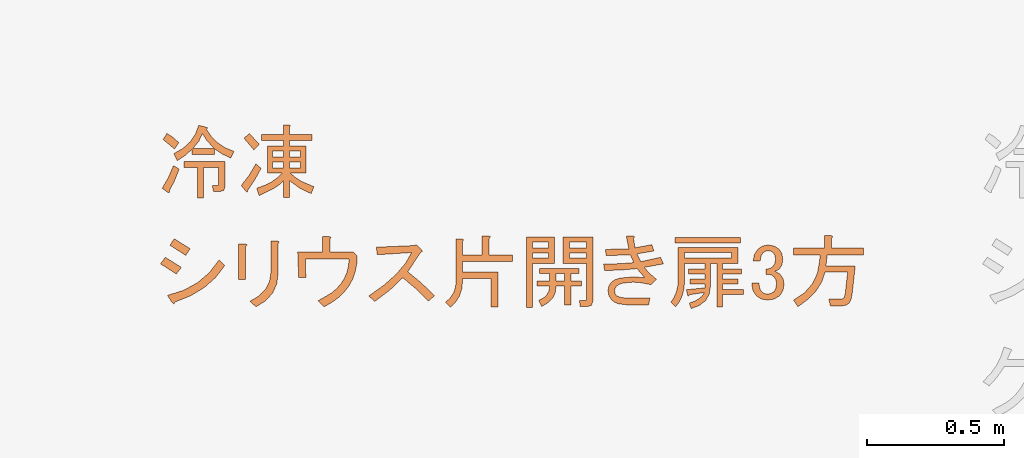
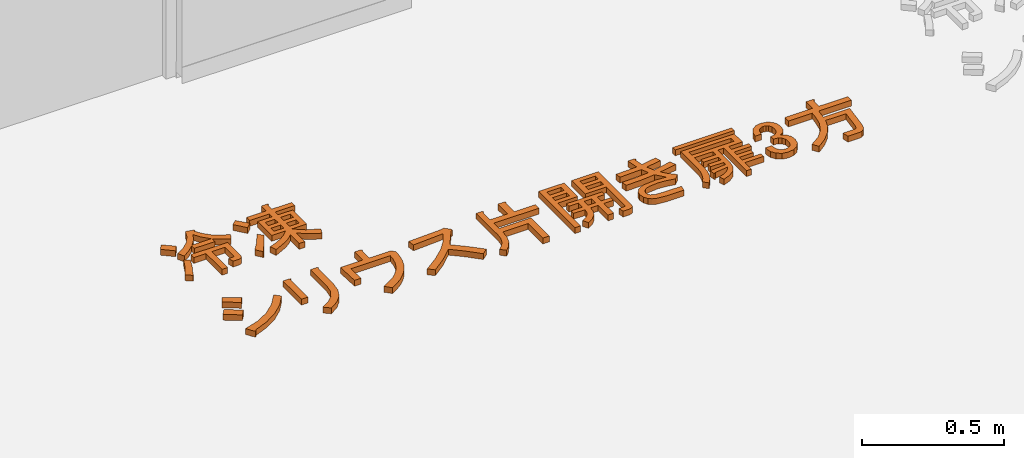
# One storey, part 13 of 16: 1 proxy.
"""IFC2X3 building model written with IfcOpenShell, lengths in millimetres."""

from ifc_helpers import new_model, entity, si_unit, converted_unit, derived_unit, direction, frame, frame_2d, origin, place, context, subcontext, project, spatial, polyline, rectangle, outline, extrude, type_object, element, save


model = new_model("IFC2X3")

# Units and contexts
model_context = context("Model", 3, precision=0.01, world=origin(), true_north=direction((6.123031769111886e-17, 1.0)))
body_context = subcontext(model_context, "Body", "Model", "MODEL_VIEW")
ifc_project = project(units=[si_unit("LENGTHUNIT", "METRE", prefix="MILLI"), si_unit("AREAUNIT", "SQUARE_METRE"), si_unit("VOLUMEUNIT", "CUBIC_METRE"), converted_unit("PLANEANGLEUNIT", "DEGREE", entity("IfcRatioMeasure", 0.017453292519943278), si_unit("PLANEANGLEUNIT", "RADIAN"), dimensions=[0, 0, 0, 0, 0, 0, 0]), si_unit("MASSUNIT", "GRAM", prefix="KILO"), derived_unit("MASSDENSITYUNIT", [(si_unit("MASSUNIT", "GRAM", prefix="KILO"), 1), (si_unit("LENGTHUNIT", "METRE"), -3)]), derived_unit("IONCONCENTRATIONUNIT", [(si_unit("MASSUNIT", "GRAM", prefix="KILO"), 1), (si_unit("LENGTHUNIT", "METRE"), -3)]), derived_unit("MOMENTOFINERTIAUNIT", [(si_unit("LENGTHUNIT", "METRE"), 4)]), si_unit("TIMEUNIT", "SECOND"), si_unit("FREQUENCYUNIT", "HERTZ"), si_unit("THERMODYNAMICTEMPERATUREUNIT", "DEGREE_CELSIUS"), derived_unit("THERMALTRANSMITTANCEUNIT", [(si_unit("MASSUNIT", "GRAM", prefix="KILO"), 1), (si_unit("THERMODYNAMICTEMPERATUREUNIT", "KELVIN"), -1), (si_unit("TIMEUNIT", "SECOND"), -3)]), derived_unit("THERMALCONDUCTANCEUNIT", [(si_unit("MASSUNIT", "GRAM", prefix="KILO"), 1), (si_unit("THERMODYNAMICTEMPERATUREUNIT", "KELVIN"), -1), (si_unit("TIMEUNIT", "SECOND"), -3), (si_unit("LENGTHUNIT", "METRE"), 1)]), derived_unit("VOLUMETRICFLOWRATEUNIT", [(si_unit("LENGTHUNIT", "METRE"), 3), (si_unit("TIMEUNIT", "SECOND"), -1)]), derived_unit("MASSFLOWRATEUNIT", [(si_unit("MASSUNIT", "GRAM", prefix="KILO"), 1), (si_unit("TIMEUNIT", "SECOND"), -1)]), derived_unit("ROTATIONALFREQUENCYUNIT", [(si_unit("TIMEUNIT", "SECOND"), -1)]), si_unit("ELECTRICCURRENTUNIT", "AMPERE"), si_unit("ELECTRICVOLTAGEUNIT", "VOLT"), si_unit("POWERUNIT", "WATT"), si_unit("FORCEUNIT", "NEWTON", prefix="KILO"), si_unit("ILLUMINANCEUNIT", "LUX"), si_unit("LUMINOUSFLUXUNIT", "LUMEN"), si_unit("LUMINOUSINTENSITYUNIT", "CANDELA"), derived_unit("USERDEFINED", [(si_unit("MASSUNIT", "GRAM", prefix="KILO"), -1), (si_unit("LENGTHUNIT", "METRE"), -2), (si_unit("TIMEUNIT", "SECOND"), 3), (si_unit("LUMINOUSFLUXUNIT", "LUMEN"), 1)]), derived_unit("USERDEFINED", [(si_unit("MASSUNIT", "GRAM", prefix="KILO"), 1), (si_unit("TIMEUNIT", "SECOND"), -3), (si_unit("LENGTHUNIT", "METRE"), 3), (si_unit("ELECTRICCURRENTUNIT", "AMPERE"), -2)]), derived_unit("SOUNDPOWERUNIT", [(si_unit("MASSUNIT", "GRAM", prefix="KILO"), 1), (si_unit("TIMEUNIT", "SECOND"), -3), (si_unit("LENGTHUNIT", "METRE"), 2)]), derived_unit("SOUNDPRESSUREUNIT", [(si_unit("MASSUNIT", "GRAM", prefix="KILO"), 1), (si_unit("LENGTHUNIT", "METRE"), -1), (si_unit("TIMEUNIT", "SECOND"), -2)]), derived_unit("LINEARVELOCITYUNIT", [(si_unit("LENGTHUNIT", "METRE"), 1), (si_unit("TIMEUNIT", "SECOND"), -1)]), si_unit("PRESSUREUNIT", "PASCAL"), derived_unit("USERDEFINED", [(si_unit("MASSUNIT", "GRAM", prefix="KILO"), 1), (si_unit("LENGTHUNIT", "METRE"), -2), (si_unit("TIMEUNIT", "SECOND"), -2)]), derived_unit("LINEARFORCEUNIT", [(si_unit("MASSUNIT", "GRAM", prefix="KILO"), 1), (si_unit("TIMEUNIT", "SECOND"), -2)]), derived_unit("PLANARFORCEUNIT", [(si_unit("MASSUNIT", "GRAM", prefix="KILO"), 1), (si_unit("LENGTHUNIT", "METRE"), -1), (si_unit("TIMEUNIT", "SECOND"), -2)]), derived_unit("SPECIFICHEATCAPACITYUNIT", [(si_unit("THERMODYNAMICTEMPERATUREUNIT", "KELVIN"), -1), (si_unit("LENGTHUNIT", "METRE"), 2), (si_unit("TIMEUNIT", "SECOND"), -2)]), derived_unit("HEATINGVALUEUNIT", [(si_unit("LENGTHUNIT", "METRE"), 2), (si_unit("TIMEUNIT", "SECOND"), -2)]), derived_unit("VAPORPERMEABILITYUNIT", [(si_unit("LENGTHUNIT", "METRE"), -1), (si_unit("TIMEUNIT", "SECOND"), 1)]), derived_unit("DYNAMICVISCOSITYUNIT", [(si_unit("MASSUNIT", "GRAM", prefix="KILO"), 1), (si_unit("TIMEUNIT", "SECOND"), -1), (si_unit("LENGTHUNIT", "METRE"), -1)]), derived_unit("THERMALEXPANSIONCOEFFICIENTUNIT", [(si_unit("THERMODYNAMICTEMPERATUREUNIT", "KELVIN"), -1)]), derived_unit("MODULUSOFELASTICITYUNIT", [(si_unit("MASSUNIT", "GRAM", prefix="KILO"), 1), (si_unit("LENGTHUNIT", "METRE"), -1), (si_unit("TIMEUNIT", "SECOND"), -2)]), derived_unit("ISOTHERMALMOISTURECAPACITYUNIT", [(si_unit("LENGTHUNIT", "METRE"), 3), (si_unit("MASSUNIT", "GRAM", prefix="KILO"), -1)]), derived_unit("MOISTUREDIFFUSIVITYUNIT", [(si_unit("TIMEUNIT", "SECOND"), -1), (si_unit("LENGTHUNIT", "METRE"), 2)])], contexts=[model_context])

# Site, building, storey
site_placement = place(None, origin())
site = spatial("IfcSite", under=ifc_project, at=site_placement, Name="Default", CompositionType="ELEMENT")
building_placement = place(site_placement, origin())
building = spatial("IfcBuilding", under=site, at=building_placement, CompositionType="ELEMENT")
storey_placement = place(building_placement, frame((0.0, 0.0, 500.0)))
storey = spatial("IfcBuildingStorey", under=building, at=storey_placement, Name="レベル 1", CompositionType="ELEMENT", Elevation=500.00000000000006)

# Proxy
building_element_proxy_type = type_object("IfcBuildingElementProxyType", Name="立体文字:200㎜\u3000MS Pゴシック", PredefinedType="NOTDEFINED")
proxy_placement = place(storey_placement, origin())
element("IfcBuildingElementProxy", 1, at=proxy_placement, inside=storey, type_object=building_element_proxy_type, Name="立体文字:200㎜\u3000MS Pゴシック", ObjectType="立体文字:200㎜\u3000MS Pゴシック", context=body_context, shape_type="SweptSolid", body=[
    extrude(outline(polyline([(-12.69292841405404, -26.50604676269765), (13.137935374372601, -26.50604676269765), (20.196666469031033, 26.894788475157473), (-7.8336570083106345, 28.224694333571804), (-12.808016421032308, -2.107389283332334), (-12.69292841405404, -26.50604676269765)])), frame((4373.947496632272, 18997.18463860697, 0.0), z_axis=(0.0, 0.0, 1.0), x_axis=(-0.5339929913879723, -0.8454889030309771, 0.0)), (0.0, 0.0, 1.0), 25.0),
    extrude(outline(polyline([(-35.74413796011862, -10.848757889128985), (11.518383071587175, -10.848757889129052), (59.58462904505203, -6.865077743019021), (63.770987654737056, 17.994484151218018), (13.95401909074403, 15.607770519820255), (-32.18678147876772, 19.112710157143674), (-41.48203515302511, -10.520278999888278), (-39.41506427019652, -13.632092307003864), (-35.74413796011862, -10.848757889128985)])), frame((4663.316452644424, 18848.645883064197, 0.0), z_axis=(0.0, 0.0, 1.0), x_axis=(0.5532962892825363, 0.8329845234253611, 0.0)), (0.0, 0.0, 1.0), 25.0),
    extrude(outline(polyline([(-14.555450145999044, -34.35830877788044), (13.834076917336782, -34.35830877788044), (14.857961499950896, 33.8696365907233), (-14.136588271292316, 34.84698096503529), (-14.555450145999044, -34.35830877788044)])), frame((4406.304749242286, 18607.702182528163, 0.0), z_axis=(0.0, 0.0, 1.0), x_axis=(-0.5263546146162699, -0.8502651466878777, 0.0)), (0.0, 0.0, 1.0), 24.99999999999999),
    extrude(outline(polyline([(-84.58097707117, 8.189890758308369), (-84.58097707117, -18.247651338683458), (45.307816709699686, -18.247651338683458), (45.307816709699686, 7.0404324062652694), (42.43417082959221, 13.075088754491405), (36.112149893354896, 8.189890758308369), (-84.58097707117, 8.189890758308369)])), frame((4637.949343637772, 18573.314220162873, 0.0), z_axis=(0.0, 0.0, -1.0), x_axis=(0.0, 1.0, 0.0)), (0.0, 0.0, -1.0), 25.0),
    extrude(outline(polyline([(-11.477428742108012, -36.07605005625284), (15.650762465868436, -36.07605005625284), (18.548657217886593, -33.22685941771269), (15.26112955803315, -27.796350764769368), (8.868714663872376, 11.398284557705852), (-3.1003212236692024, 57.19232725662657), (-27.257561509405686, 55.098050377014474), (-16.493952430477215, 9.48664810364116), (-11.477428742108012, -36.07605005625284)])), frame((4371.713236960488, 18844.299493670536, 0.0), z_axis=(0.0, 0.0, 1.0), x_axis=(0.805055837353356, -0.5931990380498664, 0.0)), (0.0, 0.0, 1.0), 25.0),
    extrude(outline(polyline([(-21.439239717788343, -112.61303631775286), (6.833697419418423, -112.61303631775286), (2.592756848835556, -77.4003782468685), (-6.017637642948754, -45.78609399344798), (10.432071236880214, -54.01094843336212), (47.44391621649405, 20.01274152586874), (29.96610053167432, 28.751649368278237), (60.93781803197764, 46.35797840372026), (85.99792140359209, 66.27754775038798), (69.54821252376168, 87.35373725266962), (43.46000234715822, 64.89602923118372), (15.058551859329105, 48.41419201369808), (-15.656138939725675, 37.90822560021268), (-48.68407005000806, 33.378129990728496), (-48.29852999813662, 38.64717736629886), (-52.282443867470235, 39.03271741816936), (-73.35863336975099, 14.872207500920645), (-49.68004851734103, -10.059382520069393), (-33.13395462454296, -39.617453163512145), (-23.720351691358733, -73.80200442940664), (-21.439239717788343, -112.61303631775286)]), holes=[polyline([(26.881780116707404, 27.723542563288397), (-7.559797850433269, -41.159613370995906), (-20.668159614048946, -11.473029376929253), (-40.45921561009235, 13.844100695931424), (-9.230471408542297, 16.542881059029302), (26.881780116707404, 27.723542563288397)])]), frame((4493.915028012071, 18979.691319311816, 0.0), z_axis=(0.0, 0.0, 1.0), x_axis=(0.4472135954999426, -0.8944271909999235, 0.0)), (0.0, 0.0, 1.0), 25.0),
    extrude(outline(polyline([(-95.80016952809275, -47.90008476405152), (-95.80016952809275, -69.73979345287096), (53.62941623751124, -69.73979345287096), (53.62941623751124, 24.515791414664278), (49.606312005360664, 35.72301034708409), (37.53699930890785, 39.45874999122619), (12.248915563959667, 39.45874999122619), (7.651082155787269, 17.619041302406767), (26.04241578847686, 17.619041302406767), (29.490790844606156, 16.469582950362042), (30.640249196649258, 13.021207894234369), (30.640249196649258, -47.90008476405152), (-23.384293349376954, -47.90008476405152), (-23.384293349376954, 63.59737538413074), (-46.37346039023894, 63.59737538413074), (-46.37346039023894, -47.90008476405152), (-95.80016952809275, -47.90008476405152)])), frame((4516.185783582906, 18850.028825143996, 0.0), z_axis=(0.0, 0.0, -1.0), x_axis=(1.0, 0.0, 0.0)), (0.0, 0.0, -1.0), 25.0),
    extrude(outline(polyline([(-13.144087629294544, -27.492310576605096), (12.91593567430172, -27.492310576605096), (14.335547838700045, 27.973964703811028), (-14.107395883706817, 27.0106564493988), (-13.144087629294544, -27.492310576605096)])), frame((4667.8065243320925, 18992.7592239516, 0.0), z_axis=(0.0, 0.0, 1.0), x_axis=(-0.7498378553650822, -0.6616216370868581, 0.0)), (0.0, 0.0, 1.0), 25.0),
    extrude(outline(polyline([(-127.45617271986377, 14.34228676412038), (-127.45617271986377, -8.646880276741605), (-65.38542170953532, -8.646880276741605), (-79.53812766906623, -23.230633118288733), (-93.2597867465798, -42.843266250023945), (-119.40996425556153, -97.1551733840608), (-92.97242215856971, -106.35084020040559), (-82.12440896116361, -76.75228763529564), (-69.12116135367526, -51.17683930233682), (-53.96267933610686, -29.624495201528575), (-36.64896290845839, -12.095255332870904), (-36.64896290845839, -67.26925623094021), (62.20445536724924, -67.26925623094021), (62.20445536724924, -8.646880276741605), (81.74524735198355, -8.646880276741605), (81.74524735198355, -89.1089649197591), (103.58495604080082, -89.1089649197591), (103.58495604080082, -8.646880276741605), (138.0687066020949, -8.646880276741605), (138.0687066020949, 13.192828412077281), (135.7697898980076, 18.078026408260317), (131.17195648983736, 14.34228676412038), (103.58495604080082, 14.34228676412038), (103.58495604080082, 94.80437140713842), (81.74524735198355, 94.80437140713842), (81.74524735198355, 14.34228676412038), (62.20445536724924, 14.34228676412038), (62.20445536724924, 74.11412107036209), (-36.64896290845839, 74.11412107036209), (-36.64896290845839, 15.49174511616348), (-52.74137983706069, 33.88307874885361), (-66.53488006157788, 54.573329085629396), (-87.22513039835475, 102.85057987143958), (-112.51321414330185, 92.50545470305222), (-91.53559921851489, 49.40076650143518), (-65.38542170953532, 14.34228676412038), (-127.45617271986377, 14.34228676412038)]), holes=[polyline([(21.973413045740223, 14.34228676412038), (21.973413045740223, 54.573329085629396), (43.81312173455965, 54.573329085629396), (43.81312173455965, 14.34228676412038), (21.973413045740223, 14.34228676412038)]), polyline([(-18.25762927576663, 14.34228676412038), (-18.25762927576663, 54.573329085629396), (3.582079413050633, 54.573329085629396), (3.582079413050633, 14.34228676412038), (-18.25762927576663, 14.34228676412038)]), polyline([(-18.25762927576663, -47.72846424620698), (-18.25762927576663, -8.646880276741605), (3.582079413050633, -8.646880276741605), (3.582079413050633, -47.72846424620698), (-18.25762927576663, -47.72846424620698)]), polyline([(21.973413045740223, -47.72846424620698), (21.973413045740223, -8.646880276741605), (43.81312173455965, -8.646880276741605), (43.81312173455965, -47.72846424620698), (21.973413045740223, -47.72846424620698)])]), frame((4792.261333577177, 18915.03708083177, 0.0), z_axis=(0.0, 0.0, -1.0), x_axis=(0.0, 1.0, 0.0)), (0.0, 0.0, -1.0), 25.0),
    extrude(outline(polyline([(-24.76086191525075, -100.9324471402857), (5.213344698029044, -100.9324471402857), (14.007247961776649, -98.35378377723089), (10.414751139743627, -90.61779368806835), (21.875477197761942, -29.78778614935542), (23.197868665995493, 27.95664129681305), (14.381925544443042, 82.61548865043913), (-4.572352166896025, 134.1887559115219), (-33.136007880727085, 127.84127686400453), (-12.975047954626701, 72.94550103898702), (-4.858870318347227, 16.517955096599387), (-8.787474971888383, -41.44136096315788), (-24.76086191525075, -100.9324471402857)])), frame((4459.060098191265, 18464.558697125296, 0.0), z_axis=(0.0, 0.0, 1.0), x_axis=(0.5368754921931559, -0.8436614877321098, 0.0)), (0.0, 0.0, 1.0), 24.999999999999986),
    extrude(outline(polyline([(-12.927911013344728, -34.30740209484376), (16.736132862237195, -34.30740209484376), (13.261965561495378, 33.839725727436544), (-17.070187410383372, 34.77507846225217), (-12.927911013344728, -34.30740209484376)])), frame((4372.970457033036, 18539.88413975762, 0.0), z_axis=(0.0, 0.0, 1.0), x_axis=(-0.5812381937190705, -0.8137334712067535, 0.0)), (0.0, 0.0, 1.0), 24.99999999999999),
    extrude(outline(polyline([(12.171942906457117, 32.40035729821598), (-27.915417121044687, 27.37147700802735), (-61.968120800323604, 12.28483613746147), (-89.98616813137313, -12.859565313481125), (-111.96955911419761, -48.06172734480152), (-92.42876712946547, -71.0508943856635), (-72.88797514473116, -37.788443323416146), (-48.74934975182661, -13.865341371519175), (-20.012890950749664, 0.7184114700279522), (13.32140125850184, 5.962815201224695), (128.26723646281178, 5.962815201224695), (128.26723646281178, 30.10144059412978), (124.81886140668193, 36.4234615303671), (119.07156964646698, 32.40035729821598), (12.171942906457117, 32.40035729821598)])), frame((4732.133087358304, 18501.849383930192, 0.0), z_axis=(0.0, 0.0, -1.0), x_axis=(0.0, 1.0, 0.0)), (0.0, 0.0, -1.0), 25.0),
    extrude(outline(polyline([(-22.97401156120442, -96.89434063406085), (-3.467056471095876, -96.89434063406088), (57.49217818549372, -35.93510597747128), (91.62934959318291, -70.07227738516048), (93.05173173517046, -77.59058299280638), (100.5700373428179, -74.13622636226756), (116.82583325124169, -57.88043045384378), (76.18634348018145, -17.240940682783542), (140.39673731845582, 46.96945315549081), (72.12239450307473, 110.36705719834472), (53.428229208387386, 91.67289190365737), (103.00840672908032, 45.343873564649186), (-9.969374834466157, -67.63390799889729), (-25.86957520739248, -48.88894334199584), (-38.21382022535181, -28.82319526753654), (-47.0021098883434, -7.436663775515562), (-52.234444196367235, 15.270651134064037), (-53.91082314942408, 39.29874946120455), (-52.03124674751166, 64.64763120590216), (-37.604227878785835, 119.30774494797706), (-68.4902401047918, 119.30774494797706), (-77.20233072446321, 88.01533782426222), (-81.79967300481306, 57.94211539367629), (-82.28226694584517, 29.088077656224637), (-78.65011254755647, 1.4532246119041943), (-70.90320980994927, -24.962443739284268), (-59.04155873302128, -50.15892739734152), (-43.06515931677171, -74.1362263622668), (-22.97401156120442, -96.89434063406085)])), frame((4968.287766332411, 18522.673053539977, 0.0), z_axis=(0.0, 0.0, 1.0), x_axis=(-0.7071067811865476, 0.7071067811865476, 0.0)), (0.0, 0.0, 1.0), 24.999999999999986),
    extrude(outline(polyline([(5.5250916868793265, 11.308020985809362), (-1.6526031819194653, 74.77664998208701), (-13.951595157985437, 140.91623239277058), (-42.898742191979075, 132.40700027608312), (-29.969436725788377, 67.2286459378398), (-22.82325753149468, 7.904328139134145), (-87.34766162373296, -7.171982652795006), (-151.01326358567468, -30.37145854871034), (-146.6483426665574, -59.350121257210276), (-83.07334826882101, -34.71668217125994), (-25.486332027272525, -19.214909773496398), (26.112706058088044, -12.844804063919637), (71.7237659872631, -15.606365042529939), (-3.7090009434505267, -115.96803050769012), (17.469532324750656, -133.9792384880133), (95.39203754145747, -25.628349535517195), (105.83948364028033, -15.984553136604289), (100.54485032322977, 9.480111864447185), (96.59357263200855, 15.507484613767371), (89.37254371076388, 11.308020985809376), (5.5250916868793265, 11.308020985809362)])), frame((5225.210489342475, 18519.05020712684, 0.0), z_axis=(0.0, 0.0, -1.0), x_axis=(0.548356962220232, 0.8362443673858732, 0.0)), (0.0, 0.0, -1.0), 25.0),
    extrude(outline(polyline([(37.146662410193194, -113.38448760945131), (58.98637109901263, -113.38448760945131), (58.98637109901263, 40.64293156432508), (61.42897009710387, 63.56025745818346), (68.7567670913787, 84.03498435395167), (80.9697620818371, 102.06711225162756), (98.067955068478, 117.65664115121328), (79.67662143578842, 136.04797478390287), (60.56687633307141, 116.43534165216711), (46.91705840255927, 94.38010952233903), (38.727167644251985, 69.88227839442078), (35.997204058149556, 42.9418482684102), (35.997204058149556, 31.44726474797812), (-67.45404762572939, 31.44726474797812), (-67.45404762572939, 134.89851643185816), (-93.8915897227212, 134.89851643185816), (-93.8915897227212, 6.1591810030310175), (35.997204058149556, 6.1591810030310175), (35.997204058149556, -30.623486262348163), (-146.76667391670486, -30.623486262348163), (-146.76667391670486, -55.91157000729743), (-61.70675586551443, -55.91157000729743), (-61.70675586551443, -115.6834043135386), (-66.59195386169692, -121.43069607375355), (-60.557297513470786, -124.87907112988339), (-35.269213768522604, -124.87907112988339), (-35.269213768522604, -55.91157000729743), (35.997204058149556, -55.91157000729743), (35.997204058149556, -104.18882079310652), (31.11200606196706, -109.93611255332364), (37.146662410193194, -113.38448760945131)])), frame((5473.009762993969, 18523.62888289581, 0.0), z_axis=(0.0, 0.0, 1.0), x_axis=(-1.0, 0.0, 0.0)), (0.0, 0.0, 1.0), 25.0),
    extrude(outline(polyline([(-168.70511813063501, -69.76327998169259), (-73.30007491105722, -69.76327998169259), (-73.30007491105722, -27.23332095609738), (-73.30007491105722, 15.296638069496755), (57.73817722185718, 15.296638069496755), (61.18655227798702, 14.147179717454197), (62.33601063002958, 10.698804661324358), (62.33601063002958, -11.140904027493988), (84.175719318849, -7.692528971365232), (84.175719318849, 19.894471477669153), (79.57788591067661, 33.687971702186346), (65.78438568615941, 38.285805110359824), (-168.70511813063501, 38.285805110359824), (-168.70511813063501, -69.76327998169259)]), holes=[polyline([(-129.62353416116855, 15.296638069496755), (-129.62353416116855, -46.77411294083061), (-150.31378449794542, -46.77411294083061), (-150.31378449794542, 15.296638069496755), (-129.62353416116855, 15.296638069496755)]), polyline([(-91.69140854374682, -46.77411294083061), (-111.23220052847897, -46.77411294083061), (-111.23220052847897, 15.296638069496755), (-91.69140854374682, 15.296638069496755), (-91.69140854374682, -46.77411294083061)])]), frame((5874.602511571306, 18475.205002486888, 0.0), z_axis=(0.0, 0.0, 1.0), x_axis=(0.0, -1.0, 0.0)), (0.0, 0.0, 1.0), 25.0),
    extrude(outline(polyline([(-70.58116380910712, -3.9070531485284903), (-70.58116380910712, -22.29838678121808), (-24.602829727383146, -22.29838678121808), (-24.602829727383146, -49.88538723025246), (-62.534955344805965, -49.88538723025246), (-62.534955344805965, -68.27672086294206), (82.29679701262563, -68.27672086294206), (82.29679701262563, -49.88538723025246), (52.41087985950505, -49.88538723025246), (52.41087985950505, -22.29838678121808), (91.49246382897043, -22.29838678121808), (91.49246382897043, -3.9070531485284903), (52.41087985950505, -3.9070531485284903), (52.41087985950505, 65.06044797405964), (29.421712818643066, 65.06044797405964), (29.421712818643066, -3.9070531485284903), (-1.6136626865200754, -3.9070531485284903), (-3.9844205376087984, 19.728684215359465), (-13.39561079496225, 40.059728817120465), (-29.847233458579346, 57.08608065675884), (-53.33928852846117, 70.80773973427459), (-64.83387204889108, 48.96803104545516), (-47.23279103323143, 40.059728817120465), (-34.660590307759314, 28.27778070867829), (-27.117269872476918, 13.622186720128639), (-24.602829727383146, -3.9070531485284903), (-70.58116380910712, -3.9070531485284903)]), holes=[polyline([(29.421712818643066, -22.29838678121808), (29.421712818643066, -49.88538723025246), (-1.6136626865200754, -49.88538723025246), (-1.6136626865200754, -22.29838678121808), (29.421712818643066, -22.29838678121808)])]), frame((5780.015352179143, 18461.837022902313, 0.0), z_axis=(0.0, 0.0, -1.0), x_axis=(1.0, 0.0, 0.0)), (0.0, 0.0, -1.0), 25.0),
    extrude(outline(polyline([(42.163175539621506, 67.93889097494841), (105.09011528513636, 67.93889097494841), (100.93277992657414, 91.93805418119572), (38.950689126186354, 90.61526565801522), (38.9506891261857, 125.5746766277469), (44.714267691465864, 130.4406486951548), (39.328628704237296, 134.83419628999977), (14.384616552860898, 138.99153164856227), (15.707405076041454, 90.99320523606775), (-68.5731208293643, 102.70933215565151), (-70.08487914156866, 79.65501789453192), (17.786072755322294, 68.50580034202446), (25.53383410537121, 38.081664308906), (-27.850131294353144, 42.900393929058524), (-84.06864352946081, 51.68748911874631), (-84.63555289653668, 27.310386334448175), (-23.409341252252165, 18.85398827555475), (33.28159545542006, 14.649410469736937), (56.14693992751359, -22.95557754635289), (15.896374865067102, -12.7512089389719), (-34.79477104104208, -9.255267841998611), (-53.08940874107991, -12.396890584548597), (-66.68342293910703, -18.79824218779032), (-78.3050649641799, -30.845066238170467), (-84.06864352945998, -46.19886159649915), (-83.9269161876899, -66.3241441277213), (-76.32088217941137, -83.61487982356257), (-66.87239272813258, -93.34682395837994), (-53.64450749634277, -101.37803999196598), (-15.850549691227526, -112.33828775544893), (53.31239309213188, -123.86544488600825), (62.00500338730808, -99.67731189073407), (-7.157939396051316, -88.15015476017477), (-40.5111071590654, -80.26066606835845), (-56.66802412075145, -70.57596438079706), (-60.44741990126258, -61.78886919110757), (-60.44741990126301, -51.30104590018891), (-56.99872125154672, -42.84464784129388), (-49.676141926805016, -35.616553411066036), (-39.89695534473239, -31.128520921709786), (-26.432857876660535, -29.002610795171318), (11.550069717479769, -31.837157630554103), (39.23414380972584, -38.78179737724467), (74.66597925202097, -51.67898547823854), (97.1533841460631, -35.61655341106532), (75.98876777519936, -10.53081391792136), (60.11530549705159, 14.838380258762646), (131.35691595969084, 15.78322920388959), (125.12091292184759, 41.294150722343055), (51.044755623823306, 37.32578515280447), (42.163175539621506, 67.93889097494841)])), frame((6043.39207068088, 18509.04273534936, 0.0), z_axis=(0.0, 0.0, 1.0), x_axis=(0.9863939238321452, 0.16439898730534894, 0.0)), (0.0, 0.0, 1.0), 25.0),
    extrude(rectangle(XDim=239.08733722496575, YDim=18.39133363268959, at=frame_2d((-5.400124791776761e-13, 0.0), x_axis=(1.0, 0.0))), frame((6332.486593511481, 18632.41553709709, 0.0), z_axis=(0.0, 0.0, 1.0), x_axis=(-1.0, 0.0, 0.0)), (0.0, 0.0, 1.0), 25.0),
    extrude(outline(polyline([(45.656903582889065, -73.01948813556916), (67.46634239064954, -73.01948813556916), (65.92150714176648, -40.16902093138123), (56.561622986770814, -13.952258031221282), (39.386689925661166, 5.630800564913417), (14.39670795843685, 18.580154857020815), (-67.38868757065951, 45.84195336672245), (-59.75538398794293, 68.74186411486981), (91.8202157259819, 18.21666421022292), (97.9995567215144, 36.754687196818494), (54.380679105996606, 51.29431306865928), (78.73455244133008, 124.3559330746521), (61.28700139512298, 130.1717834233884), (36.933128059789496, 57.11016341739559), (18.395105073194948, 63.289504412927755), (36.569637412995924, 117.81310143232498), (19.122086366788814, 123.6289517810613), (0.9475540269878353, 69.10535476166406), (-16.49999701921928, 74.92120511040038), (5.672932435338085, 141.43999347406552), (-11.774618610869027, 147.25584382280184), (-33.94754806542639, 80.7370554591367), (-53.57604299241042, 87.27988710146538), (-35.7650012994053, 140.7130121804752), (-90.28859831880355, 158.8875445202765), (-158.98833056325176, -47.211652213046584), (-48.850664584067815, -83.92420753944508), (-26.882198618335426, -92.98875554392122), (-7.8670941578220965, -104.55230174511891), (8.194648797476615, -118.61484614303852), (21.303030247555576, -135.17638873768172), (43.11246905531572, -124.2716693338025), (29.367978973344, -104.84763789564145), (11.761400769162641, -88.37696796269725), (-9.707265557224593, -74.85965953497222), (-35.03802000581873, -64.29571261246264), (-97.19492060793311, -43.57674574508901), (-73.56802856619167, 27.30393038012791), (-53.93953363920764, 20.761098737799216), (-73.20453791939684, -37.033914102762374), (-55.75698687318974, -42.849764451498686), (-36.49198259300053, 14.9452483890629), (-19.04443154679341, 9.129398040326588), (-36.1284919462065, -42.12278315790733), (-18.68094089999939, -47.93863350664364), (-1.5968805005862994, 3.313547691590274), (11.488782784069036, -1.0483400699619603), (-3.4143337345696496, -67.56712843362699), (18.75859571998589, -70.11156296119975), (21.30303024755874, -67.02189246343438), (17.30463313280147, -63.56873131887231), (27.11888059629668, -8.681643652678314), (36.31973759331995, -19.927135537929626), (42.476360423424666, -34.3986069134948), (45.58874908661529, -52.0960577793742), (45.656903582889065, -73.01948813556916)]), holes=[polyline([(-80.1108602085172, 131.2622553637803), (-60.48236528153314, 124.71942372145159), (-114.64247165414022, -37.7608953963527), (-134.27096658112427, -31.21806375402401), (-80.1108602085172, 131.2622553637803)])]), frame((6319.502938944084, 18470.07805651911, 0.0), z_axis=(0.0, 0.0, 1.0), x_axis=(0.3162277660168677, -0.9486832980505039, 0.0)), (0.0, 0.0, 1.0), 25.0),
    extrude(outline(polyline([(21.839708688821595, -61.30444544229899), (117.24475190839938, -61.30444544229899), (117.24475190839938, 42.146806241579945), (-139.08446059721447, 42.146806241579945), (-139.08446059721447, 19.157639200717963), (21.839708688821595, 19.157639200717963), (21.839708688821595, -61.30444544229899)]), holes=[polyline([(98.85341827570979, -38.315278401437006), (78.16316793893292, -38.315278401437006), (78.16316793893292, 19.157639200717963), (98.85341827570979, 19.157639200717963), (98.85341827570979, -38.315278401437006)]), polyline([(40.23104232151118, 19.157639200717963), (59.771834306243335, 19.157639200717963), (59.771834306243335, -38.315278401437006), (40.23104232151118, -38.315278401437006), (40.23104232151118, 19.157639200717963)])]), frame((5712.49941064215, 18526.665368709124, 0.0), z_axis=(0.0, 0.0, 1.0), x_axis=(0.0, 1.0, 0.0)), (0.0, 0.0, 1.0), 25.0),
    extrude(outline(polyline([(-58.80330921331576, 41.72108092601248), (-33.51522546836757, 41.72108092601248), (-30.354215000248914, 59.53768538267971), (-23.170100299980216, 71.60699807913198), (-14.549162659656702, 77.6416544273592), (-4.7787666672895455, 79.65320654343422), (5.566358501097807, 77.92901901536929), (13.612566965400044, 72.7564564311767), (20.509317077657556, 62.12396667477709), (22.80823378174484, 48.61783103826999), (20.509317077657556, 33.387507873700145), (13.612566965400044, 22.180288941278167), (4.129535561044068, 15.283538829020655), (-5.928225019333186, 12.984622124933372), (-12.824975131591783, 12.984622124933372), (-12.824975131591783, -6.556169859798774), (-3.6293083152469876, -6.556169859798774), (7.290546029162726, -8.85508656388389), (17.0609420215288, -15.751836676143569), (23.957692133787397, -26.671691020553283), (26.256608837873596, -41.03992042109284), (23.957692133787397, -57.99443111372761), (17.0609420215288, -69.77637922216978), (6.428452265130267, -76.67312933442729), (-7.0776833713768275, -78.97204603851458), (-17.71017312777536, -76.96049392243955), (-26.618475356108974, -70.92583757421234), (-34.37731923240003, -59.431254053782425), (-36.96360052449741, -45.637753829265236), (-36.96360052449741, -37.591545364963), (-63.401142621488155, -37.591545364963), (-63.401142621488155, -46.787212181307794), (-59.378038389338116, -67.1900979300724), (-47.308725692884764, -84.71933779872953), (-29.204756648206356, -96.7886504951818), (-7.0776833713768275, -100.811754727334), (18.49776496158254, -96.7886504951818), (37.751192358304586, -84.71933779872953), (49.82050505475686, -66.32800416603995), (53.84360928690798, -43.33883712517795), (50.395234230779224, -22.648586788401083), (40.05010906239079, -6.556169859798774), (20.50931707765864, 4.938413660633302), (29.417619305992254, 7.81205954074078), (37.751192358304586, 14.134080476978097), (46.372129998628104, 28.502309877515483), (49.24577587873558, 48.61783103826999), (45.797400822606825, 69.30808137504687), (35.45227565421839, 85.40049830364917), (17.92303578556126, 96.60771723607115), (-4.7787666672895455, 100.3434568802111), (-24.894287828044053, 96.60771723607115), (-41.56143393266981, 85.40049830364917), (-54.49284039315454, 65.85970631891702), (-58.80330921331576, 41.72108092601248)])), frame((6556.811905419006, 18514.830204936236, 0.0)), (0.0, 0.0, 1.0), 25.0),
    extrude(outline(polyline([(31.254062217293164, -14.785953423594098), (43.39215042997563, 91.42231843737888), (-60.695218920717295, 91.74861113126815), (-79.11444149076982, 90.02129918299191), (-92.73716146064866, 84.7088462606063), (-101.5633788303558, 75.81125236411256), (-105.59309359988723, 63.3285174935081), (-110.81377670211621, 17.647540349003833), (-86.34182466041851, 9.06604249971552), (-80.72959032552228, 58.17309293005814), (-75.69652552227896, 64.25029435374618), (-62.42457019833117, 66.49355662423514), (18.56127642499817, 66.49355662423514), (9.16404684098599, -15.732202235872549), (-27.43375743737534, -23.408237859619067), (-62.44088483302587, -39.94312012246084), (-95.85733534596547, -65.33684902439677), (-127.68310897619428, -99.58942456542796), (-105.52783506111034, -118.31862519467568), (-74.98072092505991, -81.96757976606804), (-39.20068771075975, -56.77166580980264), (1.812264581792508, -42.73088332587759), (48.05813595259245, -39.84523231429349), (68.74509274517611, -41.05251528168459), (57.78165823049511, -136.98256728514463), (82.90619565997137, -139.85394299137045), (95.69686926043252, -27.935548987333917), (141.3778464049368, -33.156232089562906), (144.24922211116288, -8.031694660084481), (141.50836348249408, -1.6445151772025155), (135.24354375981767, -5.845533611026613), (98.69876204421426, -1.668987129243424), (111.88098687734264, 113.67548016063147), (86.75644944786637, 116.54685586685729), (71.74698552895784, -14.785953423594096), (31.254062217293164, -14.785953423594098)])), frame((6774.675011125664, 18505.42912565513, 0.0), z_axis=(0.0, 0.0, -1.0), x_axis=(0.11354659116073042, 0.9935326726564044, 0.0)), (0.0, 0.0, -1.0), 24.999999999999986),
])

save(model, "model.ifc")
